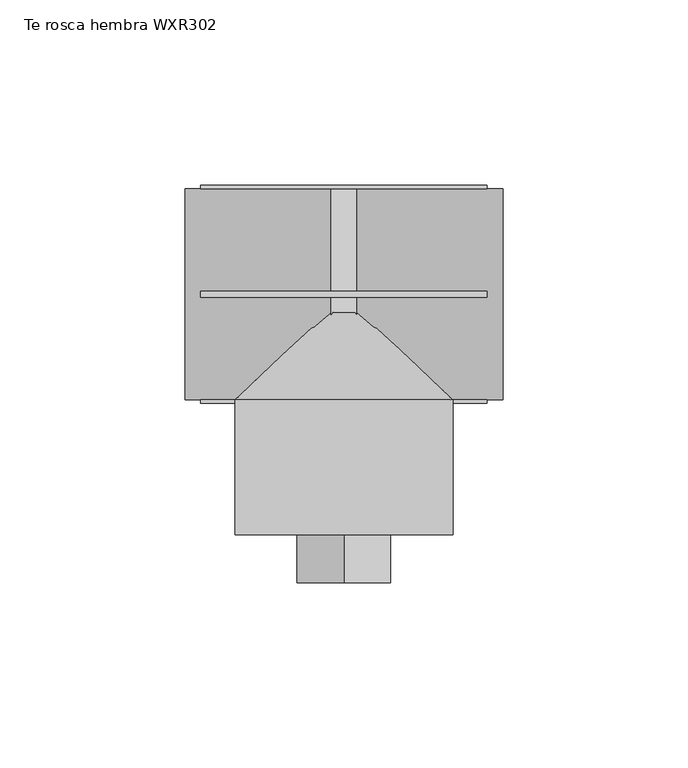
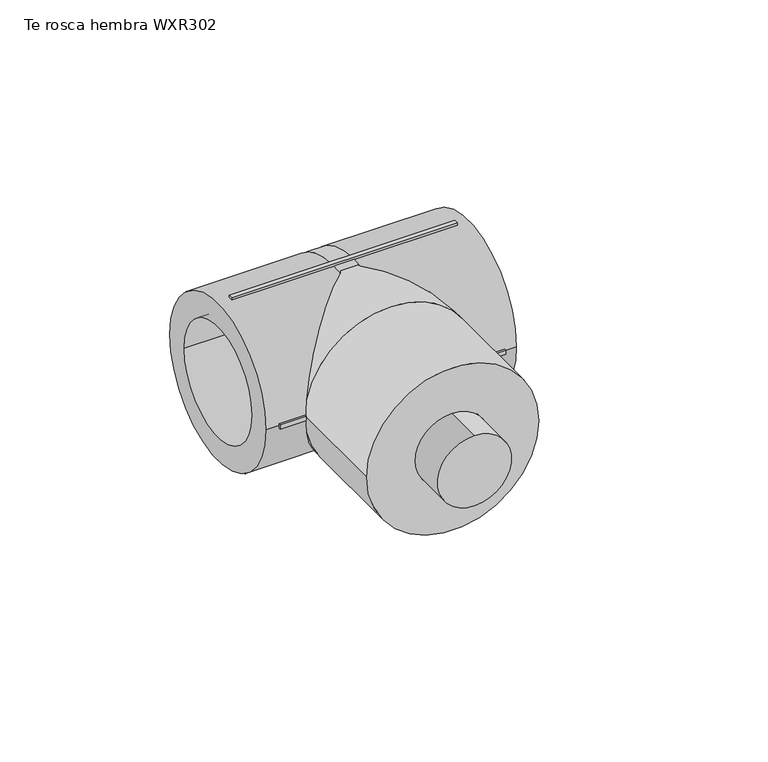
"""IFC4 building model written with IfcOpenShell, lengths in millimetres: pipe fitting geometry, EGB_VASEN_ PPR_Te rosca hembra WXR302 : Te rosca hembra WXR302."""

from ifc_helpers import new_model, si_unit, point, frame, origin, origin_2d, place, context, project, spatial, polyline, circle_curve, trimmed, segment, composite_curve, outline, extrude, source, transform, mapped, element, save
from ifc_brep_helpers import plane_surface, cylinder_surface, revolved_surface, advanced_brep


def te_rosca_hembra_wxr302_0f8ac430(model_context):
    return source(origin(), model_context, "Body", "SolidModel", [
        extrude(outline(composite_curve([segment(trimmed(circle_curve(origin_2d(), 12.7), [point((-12.7, 0.0))], [point((12.7, 0.0))], False, "CARTESIAN"), True, "CONTINUOUS"), segment(trimmed(circle_curve(origin_2d(), 12.7), [point((12.7, 0.0))], [point((-12.7, 0.0))], False, "CARTESIAN"), True, "CONTINUOUS")], self_intersect=False)), frame((0.0, -78.0, 0.0), z_axis=(0.0, 1.0, 0.0), x_axis=(0.0, 0.0, 1.0)), (0.0, 0.0, 1.0), 49.5),
        advanced_brep(
        [(3.44, -20.0, 0.0), (3.44, 20.0, 0.0), (-3.44, 20.0, 0.0), (-3.44, -20.0, 0.0), (-3.44, 28.5, 0.0), (3.44, 28.5, 0.0), (3.44, -28.5, 0.0), (-3.44, -28.5, 0.0), (43.0, -28.5, 0.0), (43.0, 28.5, 0.0), (43.0, -20.0, 0.0), (43.0, 20.0, 0.0), (-43.0, -28.5, 0.0), (-43.0, 28.5, 0.0), (-43.0, -20.0, 0.0), (-43.0, 20.0, 0.0)],
        [
            (0, 1, circle_curve(frame((3.44, 0.0, 0.0), z_axis=(1.0, 0.0, 0.0), x_axis=(0.0, 1.0, 0.0)), 20.0)),
            (1, 0, circle_curve(frame((3.44, 0.0, 0.0), z_axis=(1.0, 0.0, 0.0), x_axis=(0.0, 1.0, 0.0)), 20.0)),
            (2, 3, circle_curve(frame((-3.44, 0.0, 0.0), z_axis=(-1.0, 0.0, 0.0), x_axis=(0.0, 1.0, 0.0)), 20.0)),
            (3, 2, circle_curve(frame((-3.44, 0.0, 0.0), z_axis=(-1.0, 0.0, 0.0), x_axis=(0.0, 1.0, 0.0)), 20.0)),
            (4, 5),
            (5, 6, circle_curve(frame((3.44, 0.0, 0.0), z_axis=(-1.0, 0.0, 0.0), x_axis=(0.0, 0.0, -1.0)), 28.5)),
            (6, 7),
            (7, 4, circle_curve(frame((-3.44, 0.0, 0.0), z_axis=(1.0, 0.0, 0.0), x_axis=(0.0, 0.0, -1.0)), 28.5)),
            (4, 7, circle_curve(frame((-3.44, 0.0, 0.0), z_axis=(1.0, 0.0, 0.0), x_axis=(0.0, 0.0, 1.0)), 28.5)),
            (6, 5, circle_curve(frame((3.44, 0.0, 0.0), z_axis=(-1.0, 0.0, 0.0), x_axis=(0.0, 0.0, 1.0)), 28.5)),
            (8, 9, circle_curve(frame((43.0, 0.0, 0.0), z_axis=(1.0, 0.0, 0.0), x_axis=(0.0, 1.0, 0.0)), 28.5)),
            (9, 8, circle_curve(frame((43.0, 0.0, 0.0), z_axis=(1.0, 0.0, 0.0), x_axis=(0.0, 1.0, 0.0)), 28.5)),
            (10, 11, circle_curve(frame((43.0, 0.0, 0.0), z_axis=(-1.0, 0.0, 0.0), x_axis=(0.0, 1.0, 0.0)), 20.0)),
            (11, 10, circle_curve(frame((43.0, 0.0, 0.0), z_axis=(-1.0, 0.0, 0.0), x_axis=(0.0, 1.0, 0.0)), 20.0)),
            (9, 5),
            (6, 8),
            (11, 1),
            (0, 10),
            (12, 13, circle_curve(frame((-43.0, 0.0, 0.0), z_axis=(-1.0, 0.0, 0.0), x_axis=(0.0, 1.0, 0.0)), 28.5)),
            (13, 12, circle_curve(frame((-43.0, 0.0, 0.0), z_axis=(-1.0, 0.0, 0.0), x_axis=(0.0, 1.0, 0.0)), 28.5)),
            (14, 15, circle_curve(frame((-43.0, 0.0, 0.0), z_axis=(1.0, 0.0, 0.0), x_axis=(0.0, 1.0, 0.0)), 20.0)),
            (15, 14, circle_curve(frame((-43.0, 0.0, 0.0), z_axis=(1.0, 0.0, 0.0), x_axis=(0.0, 1.0, 0.0)), 20.0)),
            (12, 7),
            (4, 13),
            (14, 3),
            (2, 15),
        ],
        [
            plane_surface(frame((3.44, 0.0, 0.0), z_axis=(1.0, 0.0, 0.0), x_axis=(0.0, 0.0, -1.0))),
            plane_surface(frame((-3.44, 0.0, 0.0), z_axis=(-1.0, 0.0, 0.0), x_axis=(0.0, 0.0, -1.0))),
            cylinder_surface(frame((-3.44, 0.0, 0.0), z_axis=(1.0, 0.0, 0.0), x_axis=(0.0, 0.0, -1.0)), 28.5),
            cylinder_surface(frame((-3.44, 0.0, 0.0), z_axis=(1.0, 0.0, 0.0), x_axis=(0.0, 0.0, 1.0)), 28.5),
            plane_surface(frame((43.0, 0.0, 0.0), z_axis=(1.0, 0.0, 0.0), x_axis=(0.0, 0.0, 1.0))),
            cylinder_surface(frame((3.44, 0.0, 0.0), z_axis=(-1.0, 0.0, 0.0), x_axis=(0.0, 1.0, 0.0)), 28.5),
            revolved_surface(polyline([(43.0, 20.0, 0.0), (3.44, 20.0, 0.0)]), (3.44, 0.0, 0.0), (1.0, 0.0, 0.0)),
            plane_surface(frame((-43.0, 0.0, 0.0), z_axis=(-1.0, 0.0, 0.0), x_axis=(0.0, 0.0, 1.0))),
            cylinder_surface(frame((-43.0, 0.0, 0.0), z_axis=(-1.0, 0.0, 0.0), x_axis=(0.0, 1.0, 0.0)), 28.5),
            revolved_surface(polyline([(-3.4399999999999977, 20.0, 0.0), (-43.0, 20.0, 0.0)]), (-43.0, 0.0, 0.0), (1.0, 0.0, 0.0)),
        ],
        [
            (0, [[1, 2]]),
            (1, [[3, 4]]),
            (2, [[5, 6, 7, 8]]),
            (3, [[-5, 9, -7, 10]]),
            (4, [[11, 12], [13, 14]]),
            (5, [[-12, 15, -10, 16]]),
            (5, [[-11, -16, -6, -15]]),
            (6, [[-14, 17, -1, 18]]),
            (6, [[-13, -18, -2, -17]]),
            (7, [[19, 20], [21, 22]]),
            (8, [[-19, 23, -9, 24]]),
            (8, [[-20, -24, -8, -23]]),
            (9, [[-21, 25, -3, 26]]),
            (9, [[-22, -26, -4, -25]]),
        ],
    ),
        extrude(outline(composite_curve([segment(trimmed(circle_curve(origin_2d(), 29.5), [point((0.0, 29.5))], [point((0.0, -29.5))], False, "CARTESIAN"), True, "CONTINUOUS"), segment(trimmed(circle_curve(origin_2d(), 29.5), [point((0.0, -29.5))], [point((0.0, 29.5))], False, "CARTESIAN"), True, "CONTINUOUS")], self_intersect=False), holes=[composite_curve([segment(trimmed(circle_curve(origin_2d(), 12.7), [point((0.0, 12.7))], [point((0.0, -12.7))], True, "CARTESIAN"), True, "CONTINUOUS"), segment(trimmed(circle_curve(origin_2d(), 12.7), [point((0.0, -12.7))], [point((0.0, 12.7))], True, "CARTESIAN"), True, "CONTINUOUS")], self_intersect=False)]), frame((0.0, -65.0, 0.0), z_axis=(0.0, 1.0, 0.0), x_axis=(0.0, 0.0, 1.0)), (0.0, 0.0, 1.0), 36.5),
        advanced_brep(
        [(28.5, 0.0, 0.0), (-28.5, 0.0, 0.0), (29.5, -28.5, 0.0), (-29.5, -28.5, 0.0)],
        [
            (0, 1, circle_curve(frame((0.0, 0.0, 0.0), z_axis=(0.0, 1.0, 0.0), x_axis=(1.0, 0.0, 0.0)), 28.5)),
            (1, 0, circle_curve(frame((0.0, 0.0, 0.0), z_axis=(0.0, 1.0, 0.0), x_axis=(-1.0, 0.0, 0.0)), 28.5)),
            (2, 3, circle_curve(frame((0.0, -28.5, 0.0), z_axis=(0.0, -1.0, 0.0), x_axis=(-1.0, 0.0, 0.0)), 29.5)),
            (3, 2, circle_curve(frame((0.0, -28.5, 0.0), z_axis=(0.0, -1.0, 0.0), x_axis=(1.0, 0.0, 0.0)), 29.5)),
            (3, 1),
            (0, 2),
        ],
        [
            plane_surface(frame((0.0, 0.0, 0.0), z_axis=(0.0, 1.0, 0.0), x_axis=(0.0, 0.0, -1.0))),
            plane_surface(frame((0.0, -28.5, 0.0), z_axis=(0.0, -1.0, 0.0), x_axis=(0.0, 0.0, -1.0))),
            revolved_surface(polyline([(28.5, 0.0, 0.0), (29.5, -28.5, 0.0)]), (0.0, 812.25, 0.0), (0.0, -1.0, 0.0)),
            revolved_surface(polyline([(-28.5, 0.0, 0.0), (-29.5, -28.5, 0.0)]), (0.0, 812.25, 0.0), (0.0, -1.0, 0.0)),
        ],
        [
            (0, [[1, 2]]),
            (1, [[3, 4]]),
            (2, [[-4, 5, -1, 6]]),
            (3, [[-3, -6, -2, -5]]),
        ],
    ),
        extrude(outline(polyline([(38.7, 0.75), (38.7, -0.75), (-38.7, -0.75), (-38.7, 0.75), (38.7, 0.75)])), frame((0.0, 0.0, 27.5), z_axis=(0.0, 0.0, 1.0), x_axis=(1.0, 0.0, 0.0)), (0.0, 0.0, 1.0), 2.0),
        extrude(outline(polyline([(38.7, 0.75), (38.7, -0.75), (-38.7, -0.75), (-38.7, 0.75), (38.7, 0.75)])), frame((0.0, 0.0, -29.5), z_axis=(0.0, 0.0, 1.0), x_axis=(1.0, 0.0, 0.0)), (0.0, 0.0, 1.0), 2.0),
        extrude(outline(polyline([(38.7, 29.5), (38.7, 27.5), (-38.7, 27.5), (-38.7, 29.5), (38.7, 29.5)])), frame((0.0, 0.0, -0.75), z_axis=(0.0, 0.0, 1.0), x_axis=(1.0, 0.0, 0.0)), (0.0, 0.0, 1.0), 1.5),
        extrude(outline(polyline([(38.7, -27.5), (38.7, -29.5), (-38.7, -29.5), (-38.7, -27.5), (38.7, -27.5)])), frame((0.0, 0.0, -0.75), z_axis=(0.0, 0.0, 1.0), x_axis=(1.0, 0.0, 0.0)), (0.0, 0.0, 1.0), 1.5),
    ])


if __name__ == "__main__":
    model = new_model("IFC4")
    model_context = context("Model", 3, world=origin())
    ifc_project = project(units=[si_unit("LENGTHUNIT", "METRE", prefix="MILLI")], contexts=[model_context])
    site = spatial("IfcSite", under=ifc_project)
    building = spatial("IfcBuilding", under=site)
    placement = place(None, origin())
    te_rosca_hembra_wxr302_shape = te_rosca_hembra_wxr302_0f8ac430(model_context)
    element("IfcPipeFitting", 1, ObjectType="EGB_VASEN_ PPR_Te rosca hembra WXR302 : Te rosca hembra WXR302", at=placement, inside=building, context=model_context, shape_type="MappedRepresentation", body=[
        mapped(te_rosca_hembra_wxr302_shape, transform((0.0, 0.0, 0.0), x_axis=(1.0, 0.0, 0.0), y_axis=(0.0, 1.0, 0.0), z_axis=(0.0, 0.0, 1.0))),
    ])
    save(model, "model.ifc")
